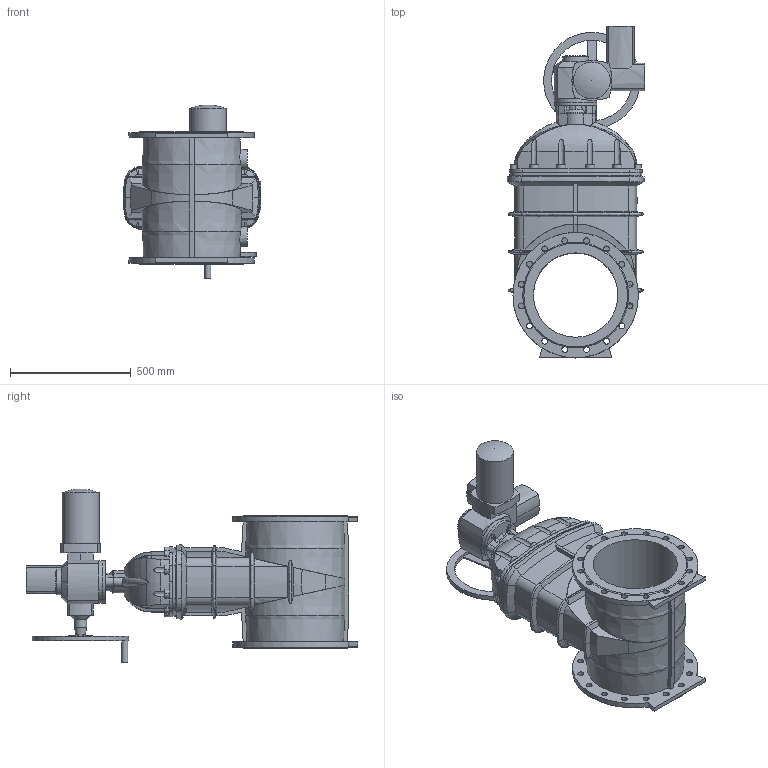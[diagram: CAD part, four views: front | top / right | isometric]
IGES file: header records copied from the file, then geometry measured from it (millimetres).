
Start section: SolidWorks IGES file using analytic representation for surfaces
Global section: file name: D:\Arthur\For Will\Finished\O_15_72_DN350 with AUMA\O_15_72_DN350_00_iges with AUMA.IGS; native system: SolidWorks 2012; preprocessor: SolidWorks 2012; author: aran; date: 150611.154516; units: millimetre
Bounding box: 569.37 x 1376 x 721 mm (x, y, z)
Surface area: 3454879 mm2 (no closed solid volume)
Topology: 0 solids, 0 shells, 563 faces, 3238 edges, 3171 vertices
Faces by surface type: revolution 330, bspline 233
